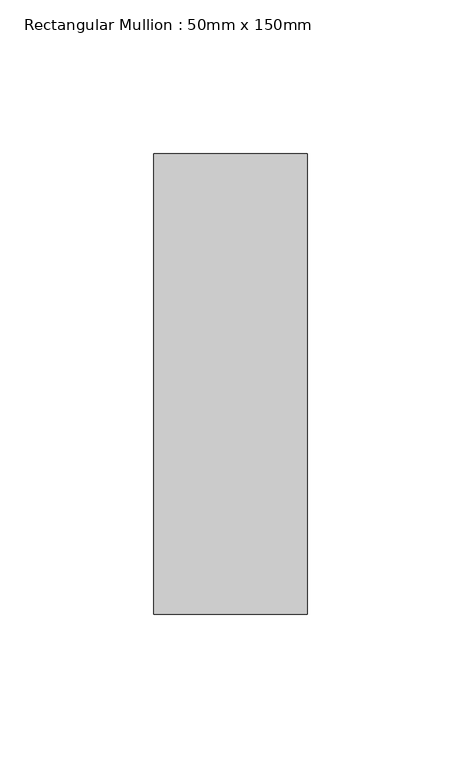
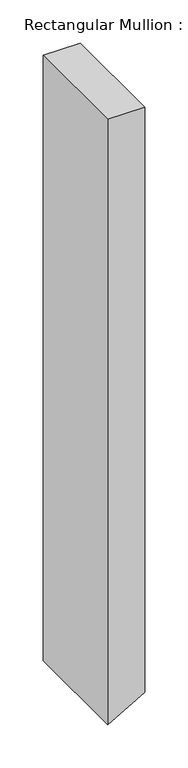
"""IFC4 building model written with IfcOpenShell, lengths in millimetres: member geometry, Rectangular Mullion : 50mm x 150mm."""

from ifc_helpers import new_model, si_unit, frame, origin, place, context, project, spatial, polyline, outline, extrude, source, transform, mapped, element, save


def rectangular_mullion_50mm_x_150mm_c95f637b(model_context):
    return source(origin(), model_context, "Body", "SweptSolid", [
        extrude(outline(polyline([(0.0, 0.0), (0.0, -50.0), (-859.6053135, -50.0), (-830.7378, 0.0), (0.0, 0.0)])), frame((0.0, -75.0, 0.0), z_axis=(0.0, 1.0, 0.0), x_axis=(0.0, 0.0, 1.0)), (0.0, 0.0, 1.0), 150.0),
    ])


if __name__ == "__main__":
    model = new_model("IFC4")
    model_context = context("Model", 3, world=origin())
    ifc_project = project(units=[si_unit("LENGTHUNIT", "METRE", prefix="MILLI")], contexts=[model_context])
    site = spatial("IfcSite", under=ifc_project)
    building = spatial("IfcBuilding", under=site)
    placement = place(None, origin())
    rectangular_mullion_50mm_x_150mm_shape = rectangular_mullion_50mm_x_150mm_c95f637b(model_context)
    element("IfcMember", 1, ObjectType="Rectangular Mullion : 50mm x 150mm", at=placement, inside=building, context=model_context, shape_type="MappedRepresentation", body=[
        mapped(rectangular_mullion_50mm_x_150mm_shape, transform((0.0, 0.0, 0.0), x_axis=(1.0, 0.0, 0.0), y_axis=(0.0, 1.0, 0.0), z_axis=(0.0, 0.0, 1.0))),
    ])
    save(model, "model.ifc")
